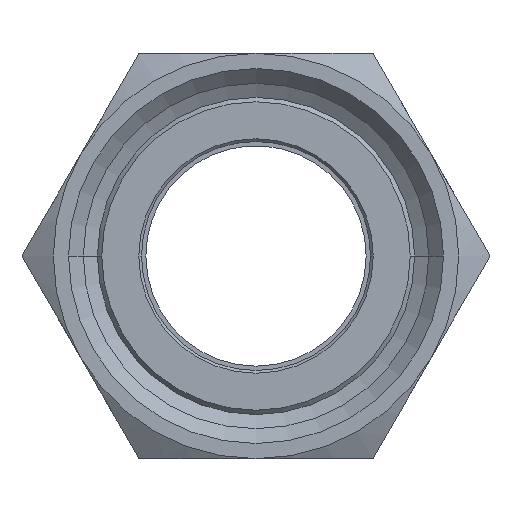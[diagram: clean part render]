
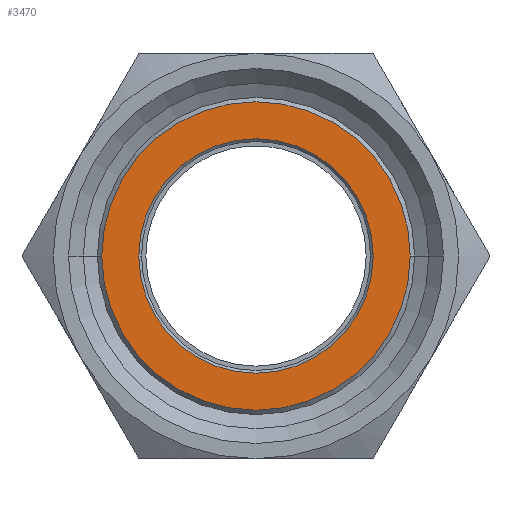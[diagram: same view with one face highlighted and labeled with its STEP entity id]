
A CAD part, front view. The second image highlights one B-rep face of the part: STEP entity #3470.
In plain terms, the highlighted planar face has unit normal (0, -1, 0).
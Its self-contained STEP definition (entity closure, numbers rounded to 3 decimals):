
#120=CARTESIAN_POINT('',(463.944,36.062,0.));
#130=VERTEX_POINT('',#120);
#160=CARTESIAN_POINT('',(477.244,36.062,0.));
#170=DIRECTION('',(0.,1.,0.));
#180=DIRECTION('',(1.,0.,0.));
#190=AXIS2_PLACEMENT_3D('',#160,#170,#180);
#200=CIRCLE('',#190,13.3);
#210=CARTESIAN_POINT('',(490.544,36.062,
0.));
#220=VERTEX_POINT('',#210);
#230=EDGE_CURVE('',#130,#220,#200,.T.);
#3090=CARTESIAN_POINT('',(459.744,36.062,
0.));
#3100=VERTEX_POINT('',#3090);
#3180=CARTESIAN_POINT('',(494.744,36.062,0.));
#3190=VERTEX_POINT('',#3180);
#3220=CARTESIAN_POINT('',(477.244,36.062,0.));
#3230=DIRECTION('',(0.,1.,0.));
#3240=DIRECTION('',(1.,0.,0.));
#3250=AXIS2_PLACEMENT_3D('',#3220,#3230,#3240);
#3260=CIRCLE('',#3250,17.5);
#3270=EDGE_CURVE('',#3100,#3190,#3260,.T.);
#3320=CARTESIAN_POINT('',(492.644,36.062,0.));
#3330=DIRECTION('',(-0.,-1.,-0.));
#3340=DIRECTION('',(-1.,0.,0.));
#3350=AXIS2_PLACEMENT_3D('',#3320,#3330,#3340);
#3360=PLANE('',#3350);
#3370=EDGE_CURVE('',#220,#130,#200,.T.);
#3380=ORIENTED_EDGE('',*,*,#3370,.T.);
#3390=ORIENTED_EDGE('',*,*,#230,.T.);
#3400=EDGE_LOOP('',(#3390,#3380));
#3410=FACE_BOUND('',#3400,.T.);
#3420=EDGE_CURVE('',#3190,#3100,#3260,.T.);
#3430=ORIENTED_EDGE('',*,*,#3420,.F.);
#3440=ORIENTED_EDGE('',*,*,#3270,.F.);
#3450=EDGE_LOOP('',(#3440,#3430));
#3460=FACE_OUTER_BOUND('',#3450,.T.);
#3470=ADVANCED_FACE('',(#3410,#3460),#3360,.T.);
